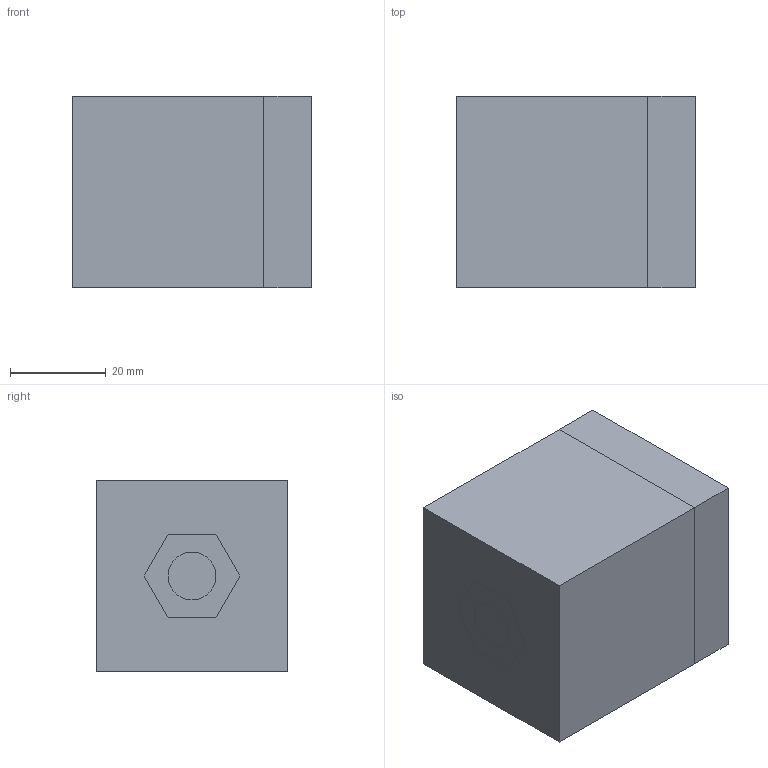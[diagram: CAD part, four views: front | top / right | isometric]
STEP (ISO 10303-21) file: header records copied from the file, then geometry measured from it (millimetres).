
FILE_DESCRIPTION(/* description */ (''),/* implementation_level */ '2;1');
FILE_NAME(/* name */ 'E:\OneDrive\Desktop\N5_GC_Sections\Task 4\ASSY_Task_4.stp',/* time_stamp */ '2020-06-08T12:55:40+01:00',/* author */ ('hunte'),/* organization */ (''),/* preprocessor_version */ 'ST-DEVELOPER v18.1',/* originating_system */ 'Autodesk Inventor 2020',/* authorisation */ '');
FILE_SCHEMA (('AUTOMOTIVE_DESIGN { 1 0 10303 214 3 1 1 }'));
Length unit declared in the file: millimetre
Products named in the file (4): ASSY_Task_4; PRT_A; PRT_B; PRT_C
Assembly tree (3 placements, depth 2):
  ASSY_Task_4
    PRT_A
    PRT_B
    PRT_C
Bounding box: 50 x 40 x 40 mm (x, y, z)
Volume: 80000 mm3; surface area: 21556.2 mm2
Topology: 3 solids, 3 shells, 29 faces, 68 edges, 46 vertices
Faces by surface type: plane 27, cylinder 2
Full cylindrical faces by diameter (mm): 10 x2
Entity records: 975 total; most frequent: CARTESIAN_POINT 150, DIRECTION 146, ORIENTED_EDGE 136, EDGE_CURVE 68, LINE 62, VECTOR 62, VERTEX_POINT 46, AXIS2_PLACEMENT_3D 42
